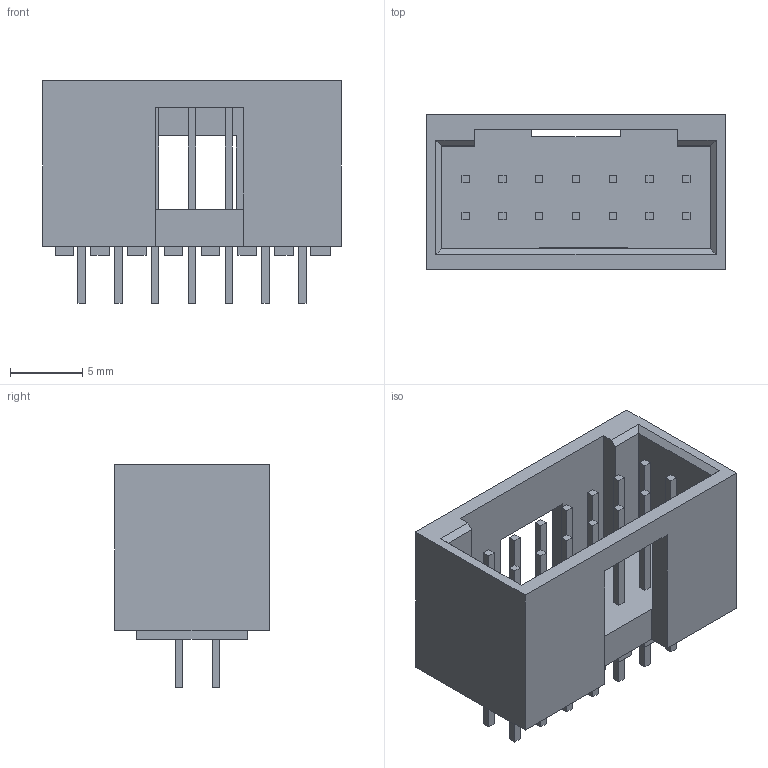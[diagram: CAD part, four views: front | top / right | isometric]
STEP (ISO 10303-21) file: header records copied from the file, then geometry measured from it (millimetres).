
FILE_DESCRIPTION((''),'2;1');
FILE_NAME('015800145','2016-11-29T',('ksrinivasara'),(''),'PRO/ENGINEER BY PARAMETRIC TECHNOLOGY CORPORATION, 2012310','PRO/ENGINEER BY PARAMETRIC TECHNOLOGY CORPORATION, 2012310','');
FILE_SCHEMA(('CONFIG_CONTROL_DESIGN'));
Length unit declared in the file: inch
Products named in the file (1): 015800145
Bounding box: 20.62 x 10.67 x 15.37 mm (x, y, z)
Volume: 1146 mm3; surface area: 1940.7 mm2
Topology: 1 solids, 1 shells, 208 faces, 543 edges, 370 vertices
Faces by surface type: plane 208
Entity records: 6294 total; most frequent: CARTESIAN_POINT 1094, ORIENTED_EDGE 1030, DIRECTION 989, VECTOR 515, LINE 515, EDGE_CURVE 515, VERTEX_POINT 342, EDGE_LOOP 245
